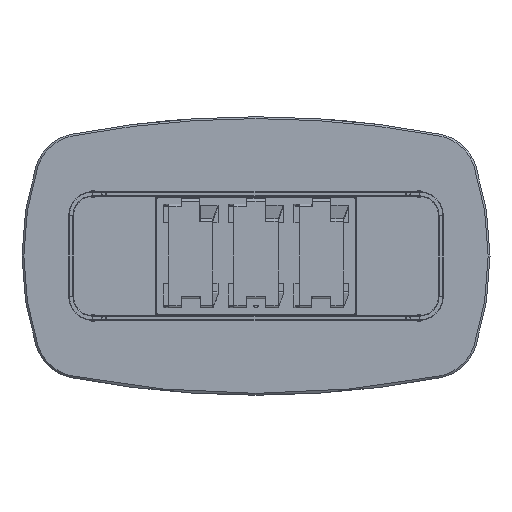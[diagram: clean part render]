
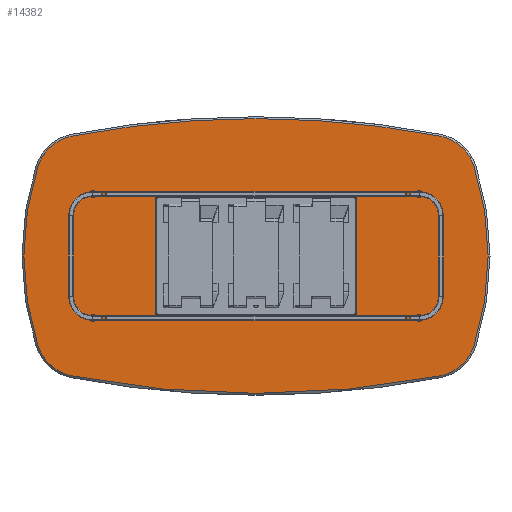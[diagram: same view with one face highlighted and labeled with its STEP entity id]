
A CAD part, front view. The second image highlights one B-rep face of the part: STEP entity #14382.
In plain terms, the highlighted planar face has unit normal (0, -1, 0).
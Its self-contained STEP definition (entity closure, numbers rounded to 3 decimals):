
#502 = EDGE_LOOP ( 'NONE', ( #7701, #16496, #6127, #1507, #13219, #17595, #15242, #6390, #11220 ) ) ;
#1237 = CARTESIAN_POINT ( 'NONE',  ( 0., 0., -3605. ) ) ;
#1507 = ORIENTED_EDGE ( 'NONE', *, *, #16911, .T. ) ;
#1603 = CARTESIAN_POINT ( 'NONE',  ( -260., 0., 0. ) ) ;
#2402 = VERTEX_POINT ( 'NONE', #12145 ) ;
#2606 = DIRECTION ( 'NONE',  ( 0., -1., 0. ) ) ;
#2845 = PLANE ( 'NONE',  #5361 ) ;
#2994 = CARTESIAN_POINT ( 'NONE',  ( 749.201, 0., 324.211 ) ) ;
#3078 = CIRCLE ( 'NONE', #11822, 192. ) ;
#3187 = DIRECTION ( 'NONE',  ( 0., 0., 1. ) ) ;
#3692 = EDGE_CURVE ( 'NONE', #15428, #10123, #6134, .T. ) ;
#3783 = AXIS2_PLACEMENT_3D ( 'NONE', #2994, #17176, #4817 ) ;
#3977 = DIRECTION ( 'NONE',  ( 0., 0., 1. ) ) ;
#3996 = CIRCLE ( 'NONE', #17426, 192. ) ;
#4153 = DIRECTION ( 'NONE',  ( 0., -1., 0. ) ) ;
#4156 = VERTEX_POINT ( 'NONE', #13595 ) ;
#4361 = CIRCLE ( 'NONE', #3783, 192. ) ;
#4413 = CARTESIAN_POINT ( 'NONE',  ( -932., 0., 382.936 ) ) ;
#4657 = CIRCLE ( 'NONE', #16054, 4192. ) ;
#4817 = DIRECTION ( 'NONE',  ( 0., 0., 1. ) ) ;
#5257 = CARTESIAN_POINT ( 'NONE',  ( 749.201, 0., -324.211 ) ) ;
#5361 = AXIS2_PLACEMENT_3D ( 'NONE', #6966, #8416, #10057 ) ;
#5592 = DIRECTION ( 'NONE',  ( 0., -1., 0. ) ) ;
#5636 = CIRCLE ( 'NONE', #15852, 4192. ) ;
#5840 = CARTESIAN_POINT ( 'NONE',  ( -749.201, 0., -324.211 ) ) ;
#5899 = CARTESIAN_POINT ( 'NONE',  ( -785.163, 0., -512.813 ) ) ;
#6127 = ORIENTED_EDGE ( 'NONE', *, *, #16862, .T. ) ;
#6134 = CIRCLE ( 'NONE', #15774, 4192. ) ;
#6274 = CIRCLE ( 'NONE', #8599, 1252. ) ;
#6378 = DIRECTION ( 'NONE',  ( 0., 0., 1. ) ) ;
#6390 = ORIENTED_EDGE ( 'NONE', *, *, #17330, .T. ) ;
#6448 = VERTEX_POINT ( 'NONE', #10955 ) ;
#6553 = CARTESIAN_POINT ( 'NONE',  ( 0., 0., -3605. ) ) ;
#6914 = AXIS2_PLACEMENT_3D ( 'NONE', #12452, #5592, #11348 ) ;
#6966 = CARTESIAN_POINT ( 'NONE',  ( -130., 0., 1802.5 ) ) ;
#7081 = DIRECTION ( 'NONE',  ( 0., 0., 1. ) ) ;
#7438 = VERTEX_POINT ( 'NONE', #4413 ) ;
#7701 = ORIENTED_EDGE ( 'NONE', *, *, #16131, .T. ) ;
#8348 = DIRECTION ( 'NONE',  ( 0., 0., 1. ) ) ;
#8416 = DIRECTION ( 'NONE',  ( 0., 1., 0. ) ) ;
#8599 = AXIS2_PLACEMENT_3D ( 'NONE', #15125, #2606, #8348 ) ;
#9033 = CARTESIAN_POINT ( 'NONE',  ( 932., 0., 382.936 ) ) ;
#9132 = CARTESIAN_POINT ( 'NONE',  ( 0., 0., 587. ) ) ;
#9226 = CARTESIAN_POINT ( 'NONE',  ( 785.163, 0., -512.813 ) ) ;
#9306 = DIRECTION ( 'NONE',  ( 0., -1., 0. ) ) ;
#9599 = CARTESIAN_POINT ( 'NONE',  ( 0., 0., 3605. ) ) ;
#9661 = VERTEX_POINT ( 'NONE', #9033 ) ;
#10057 = DIRECTION ( 'NONE',  ( 0., 0., 1. ) ) ;
#10123 = VERTEX_POINT ( 'NONE', #9226 ) ;
#10955 = CARTESIAN_POINT ( 'NONE',  ( -785.163, 0., 512.813 ) ) ;
#10986 = AXIS2_PLACEMENT_3D ( 'NONE', #1603, #16957, #7081 ) ;
#11134 = DIRECTION ( 'NONE',  ( 0., 0., 1. ) ) ;
#11220 = ORIENTED_EDGE ( 'NONE', *, *, #15684, .T. ) ;
#11348 = DIRECTION ( 'NONE',  ( 0., 0., 1. ) ) ;
#11429 = FACE_OUTER_BOUND ( 'NONE', #502, .T. ) ;
#11492 = VERTEX_POINT ( 'NONE', #9132 ) ;
#11822 = AXIS2_PLACEMENT_3D ( 'NONE', #5840, #15356, #3187 ) ;
#12145 = CARTESIAN_POINT ( 'NONE',  ( 932., 0., -382.936 ) ) ;
#12452 = CARTESIAN_POINT ( 'NONE',  ( -749.201, 0., 324.211 ) ) ;
#12743 = CIRCLE ( 'NONE', #10986, 1252. ) ;
#12893 = EDGE_CURVE ( 'NONE', #9661, #17234, #4361, .T. ) ;
#13125 = EDGE_CURVE ( 'NONE', #17234, #11492, #4657, .T. ) ;
#13219 = ORIENTED_EDGE ( 'NONE', *, *, #12893, .T. ) ;
#13595 = CARTESIAN_POINT ( 'NONE',  ( -932., 0., -382.936 ) ) ;
#13730 = EDGE_CURVE ( 'NONE', #11492, #6448, #5636, .T. ) ;
#14382 = ADVANCED_FACE ( 'NONE', ( #11429 ), #2845, .F. ) ;
#14899 = DIRECTION ( 'NONE',  ( 0., -1., 0. ) ) ;
#15033 = DIRECTION ( 'NONE',  ( 0., -1., 0. ) ) ;
#15094 = CIRCLE ( 'NONE', #6914, 192. ) ;
#15125 = CARTESIAN_POINT ( 'NONE',  ( 260., 0., 0. ) ) ;
#15242 = ORIENTED_EDGE ( 'NONE', *, *, #13730, .T. ) ;
#15356 = DIRECTION ( 'NONE',  ( 0., -1., 0. ) ) ;
#15428 = VERTEX_POINT ( 'NONE', #5899 ) ;
#15684 = EDGE_CURVE ( 'NONE', #7438, #4156, #6274, .T. ) ;
#15774 = AXIS2_PLACEMENT_3D ( 'NONE', #9599, #14899, #11134 ) ;
#15852 = AXIS2_PLACEMENT_3D ( 'NONE', #1237, #4153, #3977 ) ;
#16054 = AXIS2_PLACEMENT_3D ( 'NONE', #6553, #9306, #6378 ) ;
#16131 = EDGE_CURVE ( 'NONE', #4156, #15428, #3078, .T. ) ;
#16399 = CARTESIAN_POINT ( 'NONE',  ( 785.163, 0., 512.813 ) ) ;
#16496 = ORIENTED_EDGE ( 'NONE', *, *, #3692, .T. ) ;
#16862 = EDGE_CURVE ( 'NONE', #10123, #2402, #3996, .T. ) ;
#16911 = EDGE_CURVE ( 'NONE', #2402, #9661, #12743, .T. ) ;
#16957 = DIRECTION ( 'NONE',  ( 0., -1., 0. ) ) ;
#17176 = DIRECTION ( 'NONE',  ( 0., -1., 0. ) ) ;
#17234 = VERTEX_POINT ( 'NONE', #16399 ) ;
#17330 = EDGE_CURVE ( 'NONE', #6448, #7438, #15094, .T. ) ;
#17426 = AXIS2_PLACEMENT_3D ( 'NONE', #5257, #15033, #17609 ) ;
#17595 = ORIENTED_EDGE ( 'NONE', *, *, #13125, .T. ) ;
#17609 = DIRECTION ( 'NONE',  ( 0., 0., 1. ) ) ;
